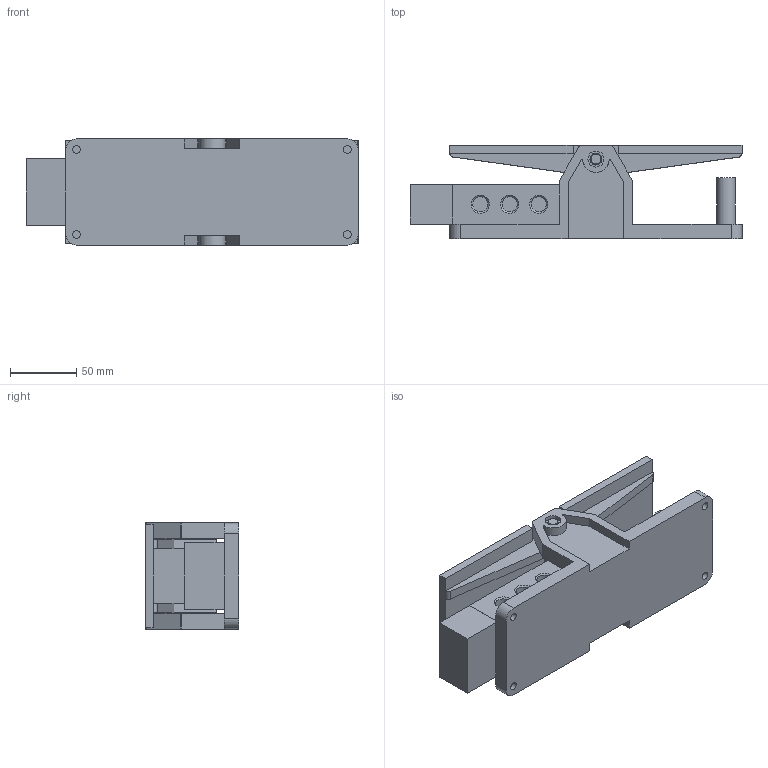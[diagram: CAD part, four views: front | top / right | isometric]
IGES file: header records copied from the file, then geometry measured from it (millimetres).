
Global section: file name: No Iges File Name specified; native system: AutoDesk Inventor R11.0; preprocessor: AutoDesk Inventor Iges Exporter R11.0; author: No Author specified; organization: No Organization specified; date: 20061219.113722; units: millimetre
Bounding box: 250 x 70.5 x 80 mm (x, y, z)
Volume: 592717.7 mm3; surface area: 128460.3 mm2
Topology: 2 solids, 2 shells, 162 faces, 412 edges, 268 vertices
Faces by surface type: plane 70, bspline 63, cylinder 21, revolution 8
